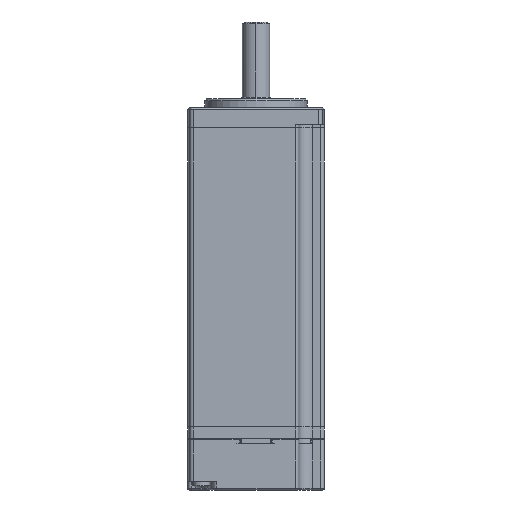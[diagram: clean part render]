
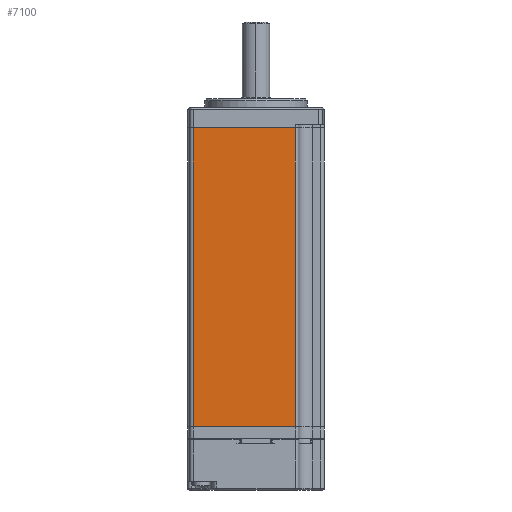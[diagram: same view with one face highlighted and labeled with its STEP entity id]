
A CAD part, front view. The second image highlights one B-rep face of the part: STEP entity #7100.
In plain terms, the highlighted planar face has unit normal (0, -1, 0).
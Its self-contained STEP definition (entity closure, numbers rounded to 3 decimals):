
#329 = ORIENTED_EDGE ( 'NONE', *, *, #17380, .T. ) ;
#417 = VERTEX_POINT ( 'NONE', #11547 ) ;
#1648 = VECTOR ( 'NONE', #4506, 1000. ) ;
#2783 = FACE_OUTER_BOUND ( 'NONE', #12576, .T. ) ;
#3004 = CARTESIAN_POINT ( 'NONE',  ( -18.397, -20., 87.5 ) ) ;
#3701 = VERTEX_POINT ( 'NONE', #11806 ) ;
#4073 = ORIENTED_EDGE ( 'NONE', *, *, #8104, .F. ) ;
#4506 = DIRECTION ( 'NONE',  ( 0., 0., -1. ) ) ;
#5312 = AXIS2_PLACEMENT_3D ( 'NONE', #11564, #10169, #8719 ) ;
#5492 = VECTOR ( 'NONE', #5623, 1000. ) ;
#5623 = DIRECTION ( 'NONE',  ( 1., 0., 0. ) ) ;
#7034 = ORIENTED_EDGE ( 'NONE', *, *, #10732, .T. ) ;
#7086 = CARTESIAN_POINT ( 'NONE',  ( 20., -20., 87.5 ) ) ;
#7100 = ADVANCED_FACE ( 'NONE', ( #2783 ), #10227, .F. ) ;
#7239 = LINE ( 'NONE', #11051, #10787 ) ;
#8104 = EDGE_CURVE ( 'NONE', #17221, #417, #17091, .T. ) ;
#8265 = LINE ( 'NONE', #11716, #15370 ) ;
#8526 = CARTESIAN_POINT ( 'NONE',  ( -18.397, -20., 0. ) ) ;
#8719 = DIRECTION ( 'NONE',  ( 0., 0., -1. ) ) ;
#10169 = DIRECTION ( 'NONE',  ( 0., 1., 0. ) ) ;
#10227 = PLANE ( 'NONE',  #5312 ) ;
#10732 = EDGE_CURVE ( 'NONE', #13117, #3701, #8265, .T. ) ;
#10787 = VECTOR ( 'NONE', #12554, 1000. ) ;
#11051 = CARTESIAN_POINT ( 'NONE',  ( 11.5, -20., 87.5 ) ) ;
#11170 = DIRECTION ( 'NONE',  ( 1., 0., 0. ) ) ;
#11547 = CARTESIAN_POINT ( 'NONE',  ( 11.5, -20., 87.5 ) ) ;
#11564 = CARTESIAN_POINT ( 'NONE',  ( 20., -20., 87.5 ) ) ;
#11716 = CARTESIAN_POINT ( 'NONE',  ( 20., -20., 0. ) ) ;
#11806 = CARTESIAN_POINT ( 'NONE',  ( 11.5, -20., 0. ) ) ;
#12165 = EDGE_CURVE ( 'NONE', #17221, #13117, #13643, .T. ) ;
#12554 = DIRECTION ( 'NONE',  ( 0., 0., 1. ) ) ;
#12576 = EDGE_LOOP ( 'NONE', ( #7034, #329, #4073, #18008 ) ) ;
#13117 = VERTEX_POINT ( 'NONE', #8526 ) ;
#13643 = LINE ( 'NONE', #3004, #1648 ) ;
#15164 = CARTESIAN_POINT ( 'NONE',  ( -18.397, -20., 87.5 ) ) ;
#15370 = VECTOR ( 'NONE', #11170, 1000. ) ;
#17091 = LINE ( 'NONE', #7086, #5492 ) ;
#17221 = VERTEX_POINT ( 'NONE', #15164 ) ;
#17380 = EDGE_CURVE ( 'NONE', #3701, #417, #7239, .T. ) ;
#18008 = ORIENTED_EDGE ( 'NONE', *, *, #12165, .T. ) ;
